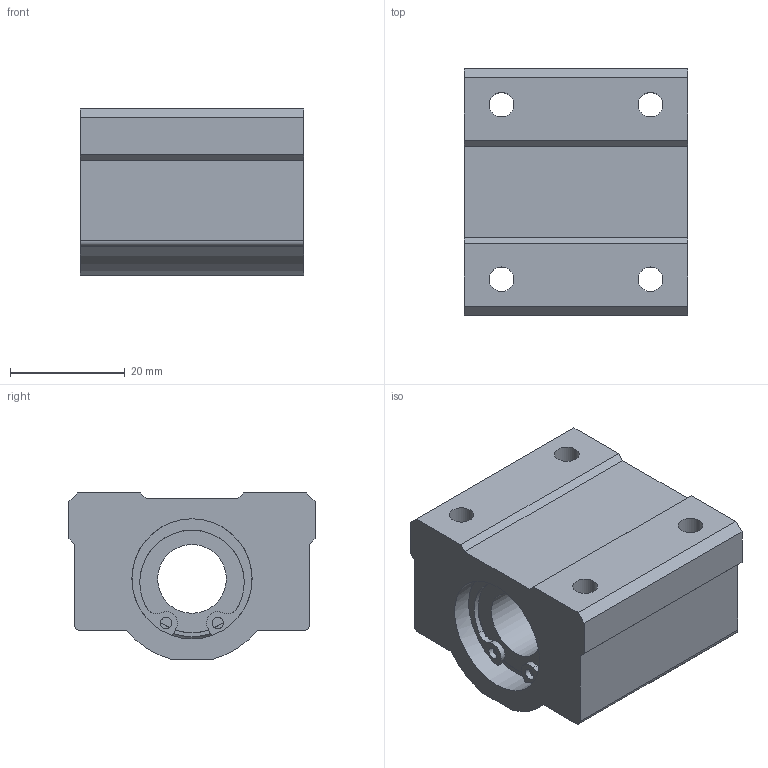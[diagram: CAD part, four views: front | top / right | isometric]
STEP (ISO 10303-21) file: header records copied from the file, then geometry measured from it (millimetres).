
FILE_DESCRIPTION((''),'2;1');
FILE_NAME('D:\製品 (図面)\カタログ用3D\リニアベアリング関連(改)\STEP形式\LH\LH12.stp','2010-01-25T10:14:53',('Tsuchiya'),(''),'Autodesk Inventor 10','Autodesk Inventor 10','');
FILE_SCHEMA(('AUTOMOTIVE_DESIGN { 1 0 10303 214 1 1 1 1 }'));
Length unit declared in the file: millimetre
Products named in the file (1): LH12
Bounding box: 39 x 43 x 29 mm (x, y, z)
Volume: 33716.1 mm3; surface area: 10961.2 mm2
Topology: 1 solids, 3 shells, 81 faces, 223 edges, 142 vertices
Faces by surface type: plane 41, cylinder 20, bspline 18, torus 2
Full cylindrical faces by diameter (mm): 2 x2, 12 x1, 18.8 x2, 20 x2, 21 x4
Entity records: 2544 total; most frequent: CARTESIAN_POINT 598, DIRECTION 412, ORIENTED_EDGE 368, EDGE_CURVE 184, AXIS2_PLACEMENT_3D 164, VERTEX_POINT 124, EDGE_LOOP 122, CIRCLE 100
